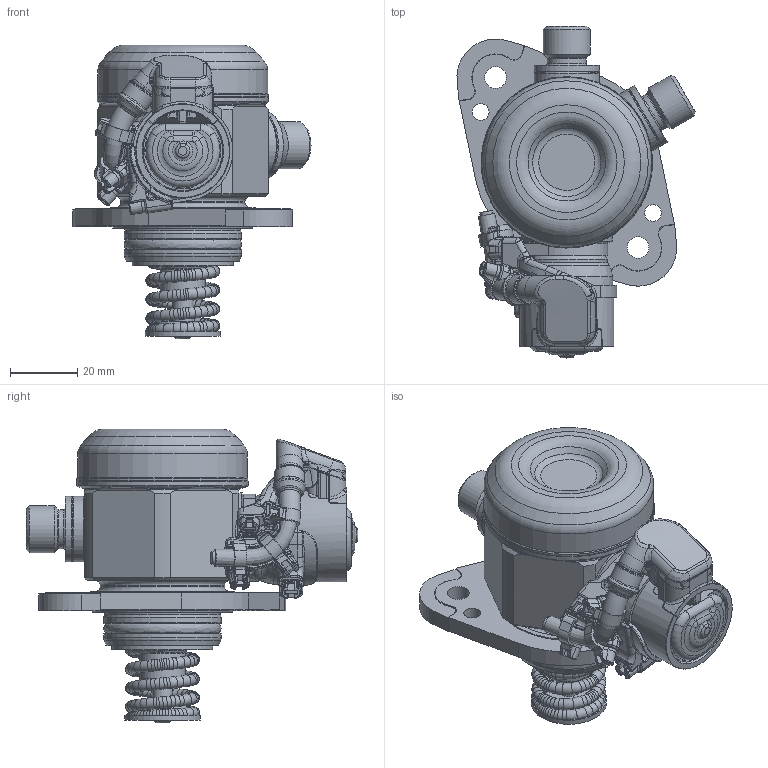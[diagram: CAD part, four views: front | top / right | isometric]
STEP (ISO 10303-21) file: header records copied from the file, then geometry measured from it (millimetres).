
FILE_DESCRIPTION(/* description */ (''),/* implementation_level */ '2;1');
FILE_NAME(/* name */ '20241119_02615200CK-01_a_01_BDC_.stp',/* time_stamp */ '2024-11-19T18:01:49+07:00',/* author */ (''),/* organization */ (''),/* preprocessor_version */ 'ST-DEVELOPER v19.4',/* originating_system */ 'SIEMENS PLM Software NX2306.5001',/* authorisation */ '');
FILE_SCHEMA (('AUTOMOTIVE_DESIGN { 1 0 10303 214 3 1 1 1 }'));
Products named in the file (1): 0261AZ00CK.001-Hochdruckpumpe HDP5 EVO4 Offer drawing _altrep_ 0261AZ
00CK_a_01_BDC_
Bounding box: 70.85 x 98.8 x 87.5 mm (x, y, z)
Volume: 150136 mm3; surface area: 36954.8 mm2
Topology: 1 solids, 1 shells, 2637 faces, 6692 edges, 3926 vertices
Faces by surface type: cylinder 895, torus 763, plane 481, bspline 320, cone 99, sphere 76, revolution 3
Full cylindrical faces by diameter (mm): 5 x2, 6 x2, 6.5 x2, 8.9 x1, 9.9 x1, 11.6 x2, 13.5 x2, 14 x2, 14.9 x2, 19.5 x4, 22.5 x1, 24 x1, 28 x1, 32 x2, 34.96 x1, 34.985 x1, 37 x1, 42.05 x1, 43.1 x1, 50.5 x1, 50.9 x1, 51.01 x1
Entity records: 104606 total; most frequent: CARTESIAN_POINT 48914, ORIENTED_EDGE 12594, DIRECTION 9851, EDGE_CURVE 6297, AXIS2_PLACEMENT_3D 4078, VERTEX_POINT 3870, EDGE_LOOP 2965, B_SPLINE_CURVE_WITH_KNOTS 2781
